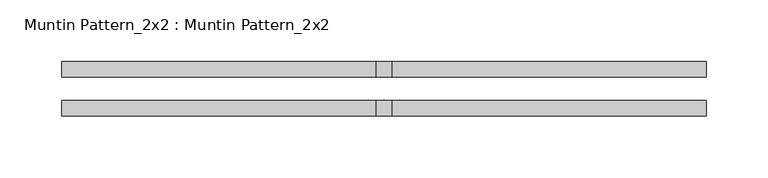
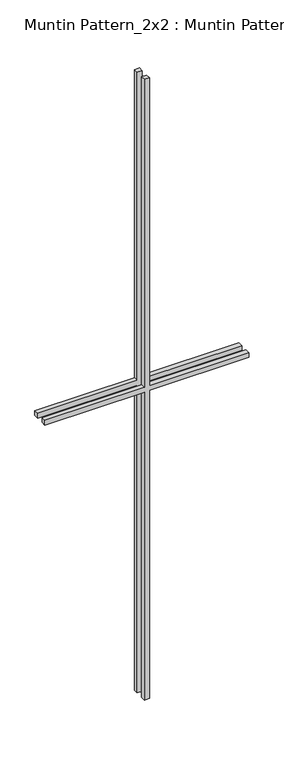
"""IFC4 building model written with IfcOpenShell, lengths in millimetres: proxy geometry, Muntin Pattern_2x2 : Muntin Pattern_2x2."""

import ifcopenshell
import ifcopenshell.guid

model = None  # the IFC model being written
_history = None  # IfcOwnerHistory: only IFC2X3 demands one
_inside = {}  # id of a spatial element -> (the spatial element, [elements in it])
_under = {}  # id of a project, library or spatial element -> (it, [spatial elements below it])
_declared = {}  # id of a project -> (the project, [libraries it declares])
_typed = {}  # id of a type object -> (the type object, [elements of that type])
_made_of = {}  # id of a material, layer set ... -> (it, [elements and type objects made of it])


def new_model(schema):
    """Start an empty IFC model of exactly this schema.

    Asked for "IFC4X3", IfcOpenShell would pick the latest addendum, in which some entities
    have other attributes; the version numbers below select the first issue.
    IFC2X3 requires an IfcOwnerHistory on every rooted entity: one is made here for all.
    """
    global model, _history
    if schema == "IFC4X3":
        model = ifcopenshell.file(schema_version=(4, 3, 0, 0))
    else:
        model = ifcopenshell.file(schema=schema)
    _inside.clear()
    _under.clear()
    _declared.clear()
    _typed.clear()
    _made_of.clear()
    _history = None
    if model.schema == "IFC2X3":
        org = make("IfcOrganization", Name="unknown")
        user = make(
            "IfcPersonAndOrganization",
            ThePerson=make("IfcPerson", FamilyName="unknown"),
            TheOrganization=org,
        )
        app = make(
            "IfcApplication",
            ApplicationDeveloper=org,
            Version="unknown",
            ApplicationFullName="unknown",
            ApplicationIdentifier="unknown",
        )
        _history = make(
            "IfcOwnerHistory",
            OwningUser=user,
            OwningApplication=app,
            ChangeAction="ADDED",
            CreationDate=0,
        )
    return model


def make(cls, **values):
    """One entity of the class cls with the attributes given. An attribute that is None is left unset."""
    return model.create_entity(
        cls, **{name: value for name, value in values.items() if value is not None}
    )


def rooted(cls, **values):
    """An entity with a GlobalId (a new one), such as an element, a storey or a relation."""
    return make(cls, GlobalId=ifcopenshell.guid.new(), OwnerHistory=_history, **values)


def si_unit(unit_type, name, prefix=None):
    """IfcSIUnit, for example si_unit("LENGTHUNIT", "METRE", prefix="MILLI")."""
    return make("IfcSIUnit", UnitType=unit_type, Prefix=prefix, Name=name)


def assignment(units):
    """IfcUnitAssignment: the units of a project."""
    return None if units is None else make("IfcUnitAssignment", Units=units)


def point(xyz):
    """IfcCartesianPoint."""
    return None if xyz is None else make("IfcCartesianPoint", Coordinates=xyz)


def direction(xyz):
    """IfcDirection."""
    return None if xyz is None else make("IfcDirection", DirectionRatios=xyz)


def frame(location, z_axis=None, x_axis=None):
    """IfcAxis2Placement3D, a coordinate frame: its origin and axes. An axis left out is left unset."""
    return make(
        "IfcAxis2Placement3D",
        Location=point(location),
        Axis=direction(z_axis),
        RefDirection=direction(x_axis),
    )


def origin():
    """The frame at (0, 0, 0) with its axes left unset."""
    return frame((0.0, 0.0, 0.0))


def place(relative_to, where):
    """IfcLocalPlacement: puts the frame where relative to a parent placement (None: the world)."""
    return make(
        "IfcLocalPlacement", PlacementRelTo=relative_to, RelativePlacement=where
    )


def context(
    kind, dimensions, precision=None, world=None, true_north=None, identifier=None
):
    """IfcGeometricRepresentationContext, for example the 3D "Model" context."""
    return make(
        "IfcGeometricRepresentationContext",
        ContextIdentifier=identifier,
        ContextType=kind,
        CoordinateSpaceDimension=dimensions,
        Precision=precision,
        WorldCoordinateSystem=world,
        TrueNorth=true_north,
    )


def project(units=None, contexts=None):
    """IfcProject with its units and contexts."""
    return rooted(
        "IfcProject",
        Name="project",
        RepresentationContexts=contexts,
        UnitsInContext=assignment(units),
    )


def spatial(cls, under=None, at=None, **own):
    """A site, building, storey or space (cls), placed at a placement, below another one or the project."""
    s = rooted(cls, ObjectPlacement=at, **own)
    if under is not None:
        _under.setdefault(under.id(), (under, []))[1].append(s)
    return s


def polyline(points):
    """IfcPolyline through the points."""
    return make("IfcPolyline", Points=[point(p) for p in points])


def outline(outer, holes=None, kind="AREA"):
    """IfcArbitraryClosedProfileDef: a profile drawn as a closed curve; with holes, ...WithVoids."""
    if holes is None:
        return make("IfcArbitraryClosedProfileDef", ProfileType=kind, OuterCurve=outer)
    return make(
        "IfcArbitraryProfileDefWithVoids",
        ProfileType=kind,
        OuterCurve=outer,
        InnerCurves=holes,
    )


def extrude(swept, where, along, depth):
    """IfcExtrudedAreaSolid: the profile swept, set in the frame where, extruded along a direction by depth."""
    return make(
        "IfcExtrudedAreaSolid",
        SweptArea=swept,
        Position=where,
        ExtrudedDirection=direction(along),
        Depth=depth,
    )


def shape(context_of_items, identifier, shape_type, items):
    """IfcShapeRepresentation: the items that make up one representation, for example the "Body"."""
    return make(
        "IfcShapeRepresentation",
        ContextOfItems=context_of_items,
        RepresentationIdentifier=identifier,
        RepresentationType=shape_type,
        Items=items,
    )


def source(mapping_origin, context_of_items, identifier, shape_type, items):
    """IfcRepresentationMap: a shape defined once, which mapped items show again and again."""
    return make(
        "IfcRepresentationMap",
        MappingOrigin=mapping_origin,
        MappedRepresentation=shape(context_of_items, identifier, shape_type, items),
    )


def transform(
    local_origin,
    x_axis=None,
    y_axis=None,
    z_axis=None,
    scale=None,
    scale2=None,
    scale3=None,
    uniform=True,
):
    """IfcCartesianTransformationOperator3D, or its non-uniform kind. x_axis, y_axis, z_axis: its Axis1, 2, 3."""
    if uniform:
        return make(
            "IfcCartesianTransformationOperator3D",
            Axis1=direction(x_axis),
            Axis2=direction(y_axis),
            LocalOrigin=point(local_origin),
            Scale=scale,
            Axis3=direction(z_axis),
        )
    return make(
        "IfcCartesianTransformationOperator3DnonUniform",
        Axis1=direction(x_axis),
        Axis2=direction(y_axis),
        LocalOrigin=point(local_origin),
        Scale=scale,
        Axis3=direction(z_axis),
        Scale2=scale2,
        Scale3=scale3,
    )


def mapped(mapping_source, mapping_target):
    """IfcMappedItem: shows the shape of a source again, moved by a transform."""
    return make(
        "IfcMappedItem", MappingSource=mapping_source, MappingTarget=mapping_target
    )


def made_of(thing, what):
    """Note that an element or type object is made of a material, layer set ...; save() writes the relation."""
    if what is not None:
        _made_of.setdefault(what.id(), (what, []))[1].append(thing)
    return thing


def element(
    cls,
    number,
    at=None,
    inside=None,
    cuts=None,
    type_object=None,
    material=None,
    context=None,
    identifier="Body",
    shape_type=None,
    held_by="IfcProductDefinitionShape",
    body=None,
    shapes=None,
    **own,
):
    """One element of the class cls, such as IfcWall. Its Tag is "e" and its number.

    at: its placement. inside: the storey or other place that contains it. cuts: it is an
    opening in that element (IfcRelVoidsElement). A single representation is given by context,
    identifier, shape_type and body (its items); several are given by shapes. held_by: the class
    of the entity that holds the representations. save() writes the other relations.
    """
    e = rooted(cls, Tag="e%d" % number, ObjectPlacement=at, **own)
    if body is not None:
        shapes = [shape(context, identifier, shape_type, body)]
    if shapes is not None:
        e.Representation = make(held_by, Representations=shapes)
    if inside is not None:
        _inside.setdefault(inside.id(), (inside, []))[1].append(e)
    if cuts is not None:
        rooted(
            "IfcRelVoidsElement", RelatingBuildingElement=cuts, RelatedOpeningElement=e
        )
    if type_object is not None:
        _typed.setdefault(type_object.id(), (type_object, []))[1].append(e)
    return made_of(e, material)


def aggregate(whole, parts):
    """IfcRelAggregates: a whole, such as a stair, and the parts it consists of."""
    return rooted("IfcRelAggregates", RelatingObject=whole, RelatedObjects=parts)


def save(model, path):
    """Write the relations noted so far, then the file.

    IfcRelAggregates (storeys below a building ...), IfcRelContainedInSpatialStructure (elements
    in a storey), IfcRelDefinesByType, IfcRelAssociatesMaterial and IfcRelDeclares: one each for
    every whole, place, type object, material and project.
    """
    for whole, parts in _under.values():
        aggregate(whole, parts)
    for where, things in _inside.values():
        rooted(
            "IfcRelContainedInSpatialStructure",
            RelatedElements=things,
            RelatingStructure=where,
        )
    for kind, things in _typed.values():
        rooted("IfcRelDefinesByType", RelatedObjects=things, RelatingType=kind)
    for what, things in _made_of.values():
        rooted("IfcRelAssociatesMaterial", RelatedObjects=things, RelatingMaterial=what)
    for by, libraries in _declared.values():
        rooted("IfcRelDeclares", RelatingContext=by, RelatedDefinitions=libraries)
    model.write(path)


def muntin_pattern_2x2_muntin_pattern_2x2_c44db0e3(model_context):
    return source(origin(), model_context, "Body", "SweptSolid", [
        extrude(outline(polyline([(847.725, -6.35), (847.725, -261.9375), (835.025, -261.9375), (835.025, -6.35), (0.0, -6.35), (0.0, 6.35), (835.025, 6.35), (835.025, 261.9375), (847.725, 261.9375), (847.725, 6.35), (1682.75, 6.35), (1682.75, -6.35), (847.725, -6.35)])), frame((0.0, 9.525, 0.0), z_axis=(0.0, 1.0, 0.0), x_axis=(0.0, 0.0, 1.0)), (0.0, 0.0, 1.0), 12.7),
        extrude(outline(polyline([(847.725, -6.35), (847.725, -261.9375), (835.025, -261.9375), (835.025, -6.35), (0.0, -6.35), (0.0, 6.35), (835.025, 6.35), (835.025, 261.9375), (847.725, 261.9375), (847.725, 6.35), (1682.75, 6.35), (1682.75, -6.35), (847.725, -6.35)])), frame((0.0, -22.225, 0.0), z_axis=(0.0, 1.0, 0.0), x_axis=(0.0, 0.0, 1.0)), (0.0, 0.0, 1.0), 12.7),
    ])


if __name__ == "__main__":
    model = new_model("IFC4")
    model_context = context("Model", 3, world=origin())
    ifc_project = project(units=[si_unit("LENGTHUNIT", "METRE", prefix="MILLI")], contexts=[model_context])
    site = spatial("IfcSite", under=ifc_project)
    building = spatial("IfcBuilding", under=site)
    placement = place(None, origin())
    muntin_pattern_2x2_muntin_pattern_2x2_shape = muntin_pattern_2x2_muntin_pattern_2x2_c44db0e3(model_context)
    element("IfcBuildingElementProxy", 1, Name="Muntin Pattern_2x2 : Muntin Pattern_2x2", ObjectType="Muntin Pattern_2x2 : Muntin Pattern_2x2", at=placement, inside=building, context=model_context, shape_type="MappedRepresentation", body=[
        mapped(muntin_pattern_2x2_muntin_pattern_2x2_shape, transform((0.0, 0.0, 0.0), x_axis=(1.0, 0.0, 0.0), y_axis=(0.0, 1.0, 0.0), z_axis=(0.0, 0.0, 1.0))),
    ])
    save(model, "model.ifc")
